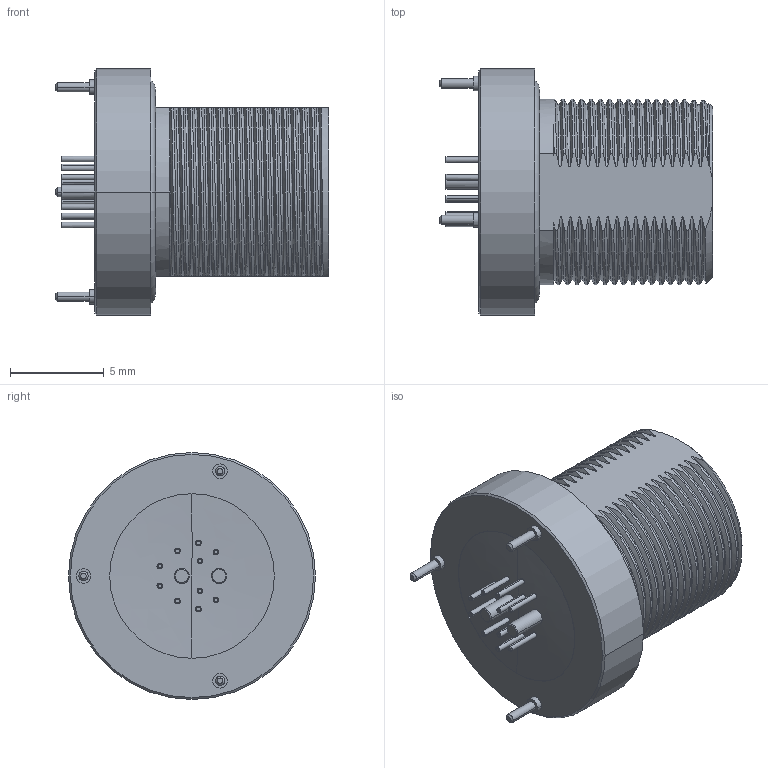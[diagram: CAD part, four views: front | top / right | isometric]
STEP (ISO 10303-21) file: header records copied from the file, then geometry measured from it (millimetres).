
FILE_DESCRIPTION((''),'2;1');
FILE_NAME('00155576--','2020-10-29T10:58:19',('EUnterhaslberger'),(''),'CREO PARAMETRIC BY PTC INC, 2018300','CREO PARAMETRIC BY PTC INC, 2018300','');
FILE_SCHEMA(('AP242_MANAGED_MODEL_BASED_3D_ENGINEERING_MIM_LF { 1 0 10303 442 1 1 4 }'));
Length unit declared in the file: millimetre
Products named in the file (1): 00155576--
Bounding box: 14.6 x 13.2 x 13.2 mm (x, y, z)
Volume: 823.3 mm3; surface area: 1227.9 mm2
Topology: 1 solids, 1 shells, 493 faces, 1359 edges, 928 vertices
Faces by surface type: cylinder 157, plane 130, bspline 121, cone 65, torus 19, sphere 1
Entity records: 35358 total; most frequent: CARTESIAN_POINT 20273, ORIENTED_EDGE 2714, DIRECTION 2041, EDGE_CURVE 1357, VERTEX_POINT 928, AXIS2_PLACEMENT_3D 823, EDGE_LOOP 555, B_SPLINE_CURVE_WITH_KNOTS 511
